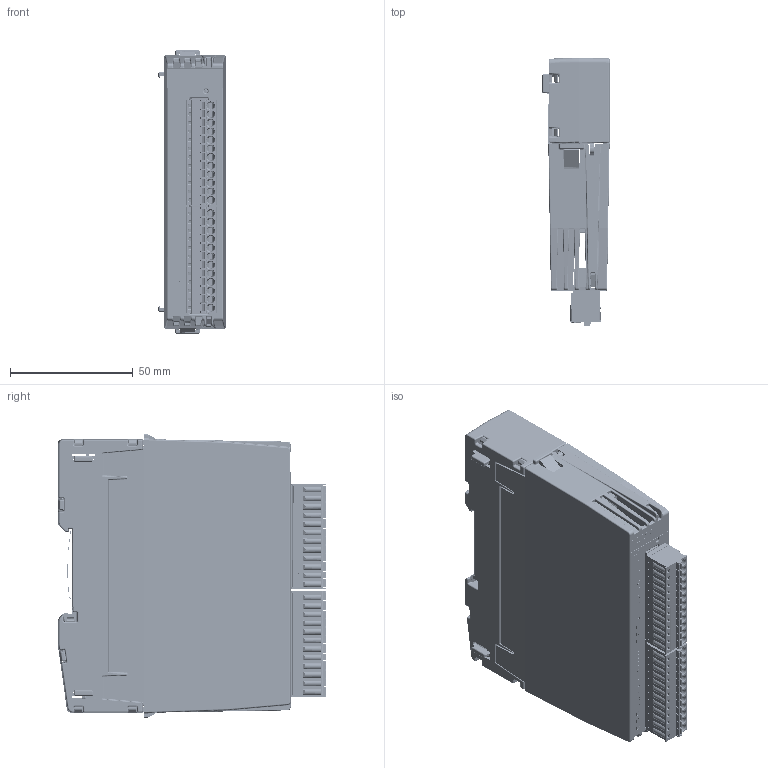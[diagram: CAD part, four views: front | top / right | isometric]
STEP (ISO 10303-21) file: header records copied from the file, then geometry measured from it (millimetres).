
FILE_DESCRIPTION(/* description */ (''),/* implementation_level */ '2;1');
FILE_NAME(/* name */ 'C:\Users\shoma\OneDrive - Brodersen\Project\3D Files\New Design\DI20A\DI20A_Simplified+BackBB21A.stp',/* time_stamp */ '2024-10-15T20:22:24+02:00',/* author */ ('shoma'),/* organization */ (''),/* preprocessor_version */ 'ST-DEVELOPER v19',/* originating_system */ 'Autodesk Inventor 2023',/* authorisation */ '');
FILE_SCHEMA (('AUTOMOTIVE_DESIGN { 1 0 10303 214 3 1 1 }'));
Products named in the file (1): DI20A_Simplified+BackBB21A
Bounding box: 27.4 x 109.39 x 115.5 mm (x, y, z)
Volume: 155135.2 mm3; surface area: 94473.4 mm2
Topology: 7 solids, 57 shells, 9482 faces, 25210 edges, 15902 vertices
Faces by surface type: plane 5762, cylinder 2404, bspline 872, cone 237, sphere 162, torus 45
Full cylindrical faces by diameter (mm): 0.296 x2, 0.3 x152, 0.457 x2, 0.7 x36, 0.8 x6, 0.85 x24, 0.9 x8, 1.17 x24, 1.2 x24, 1.25 x24, 1.3 x24, 1.4 x4, 1.6 x26, 2.35 x2, 2.5 x1, 3 x1, 3.1 x24, 3.25 x2
Entity records: 327844 total; most frequent: CARTESIAN_POINT 83798, ORIENTED_EDGE 50114, DIRECTION 46411, EDGE_CURVE 25057, LINE 17773, VECTOR 17773, VERTEX_POINT 15902, AXIS2_PLACEMENT_3D 14319
